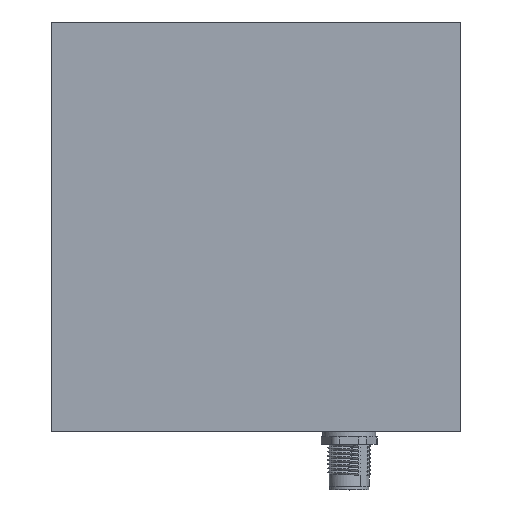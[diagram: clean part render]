
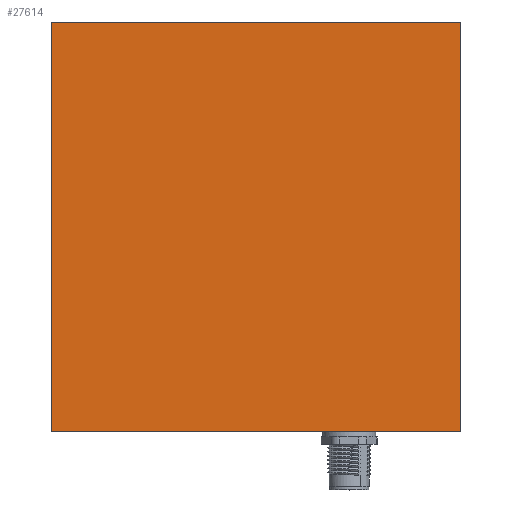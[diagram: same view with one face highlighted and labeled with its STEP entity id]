
A CAD part, top view. The second image highlights one B-rep face of the part: STEP entity #27614.
In plain terms, the highlighted planar face has unit normal (0, 0, 1).
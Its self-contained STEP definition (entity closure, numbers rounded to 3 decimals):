
#21027 = DIRECTION ( 'NONE',  ( 1., 0., 0. ) ) ;
#21028 = VECTOR ( 'NONE', #21027, 1000. ) ;
#21029 = CARTESIAN_POINT ( 'NONE',  ( 57.331, -48.68, 0.924 ) ) ;
#21030 = LINE ( 'NONE', #21029, #21028 ) ;
#23261 = CARTESIAN_POINT ( 'NONE',  ( -54.669, -48.68, 0.924 ) ) ;
#23262 = DIRECTION ( 'NONE',  ( 0., -1., 0. ) ) ;
#23263 = VECTOR ( 'NONE', #23262, 1000. ) ;
#23264 = CARTESIAN_POINT ( 'NONE',  ( -54.669, -48.68, 0.924 ) ) ;
#23265 = LINE ( 'NONE', #23264, #23263 ) ;
#23266 = CARTESIAN_POINT ( 'NONE',  ( -54.669, 63.32, 0.924 ) ) ;
#23272 = DIRECTION ( 'NONE',  ( -1., 0., 0. ) ) ;
#23273 = VECTOR ( 'NONE', #23272, 1000. ) ;
#23274 = CARTESIAN_POINT ( 'NONE',  ( 57.331, 63.32, 0.924 ) ) ;
#23275 = LINE ( 'NONE', #23274, #23273 ) ;
#23276 = CARTESIAN_POINT ( 'NONE',  ( 57.331, 63.32, 0.924 ) ) ;
#23277 = DIRECTION ( 'NONE',  ( 0., 1., 0. ) ) ;
#23278 = VECTOR ( 'NONE', #23277, 1000. ) ;
#23279 = CARTESIAN_POINT ( 'NONE',  ( 57.331, -48.68, 0.924 ) ) ;
#23280 = LINE ( 'NONE', #23279, #23278 ) ;
#23568 = DIRECTION ( 'NONE',  ( 1., 0., 0. ) ) ;
#23569 = DIRECTION ( 'NONE',  ( 0., 0., 1. ) ) ;
#23570 = CARTESIAN_POINT ( 'NONE',  ( 57.331, 63.32, 0.924 ) ) ;
#23572 = CARTESIAN_POINT ( 'NONE',  ( 57.331, -48.68, 0.924 ) ) ;
#23573 = AXIS2_PLACEMENT_3D ( 'NONE', #23570, #23569, #23568 ) ;
#23574 = PLANE ( 'NONE',  #23573 ) ;
#23579 = FACE_OUTER_BOUND ( 'NONE', #27615, .T. ) ;
#26924 = ORIENTED_EDGE ( 'NONE', *, *, #26990, .T. ) ;
#26990 = EDGE_CURVE ( 'NONE', #27546, #27616, #21030, .T. ) ;
#27535 = ORIENTED_EDGE ( 'NONE', *, *, #27536, .T. ) ;
#27536 = EDGE_CURVE ( 'NONE', #27616, #27537, #23280, .T. ) ;
#27537 = VERTEX_POINT ( 'NONE', #23276 ) ;
#27538 = ORIENTED_EDGE ( 'NONE', *, *, #27539, .T. ) ;
#27539 = EDGE_CURVE ( 'NONE', #27537, #27543, #23275, .T. ) ;
#27543 = VERTEX_POINT ( 'NONE', #23266 ) ;
#27544 = ORIENTED_EDGE ( 'NONE', *, *, #27545, .T. ) ;
#27545 = EDGE_CURVE ( 'NONE', #27543, #27546, #23265, .T. ) ;
#27546 = VERTEX_POINT ( 'NONE', #23261 ) ;
#27614 = ADVANCED_FACE ( 'NONE', ( #23579 ), #23574, .T. ) ;
#27615 = EDGE_LOOP ( 'NONE', ( #27535, #27538, #27544, #26924 ) ) ;
#27616 = VERTEX_POINT ( 'NONE', #23572 ) ;
